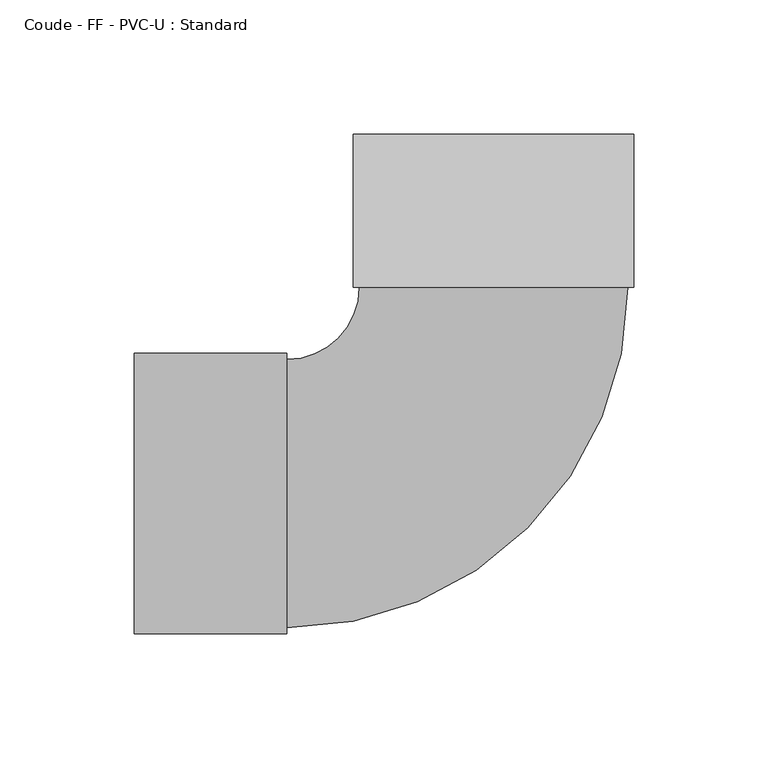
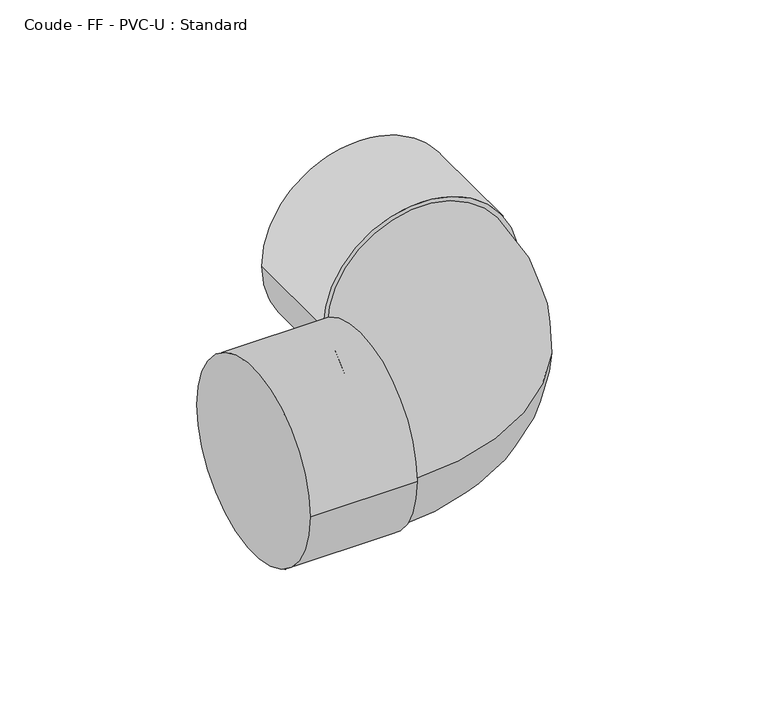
"""IFC4 building model written with IfcOpenShell, lengths in millimetres: pipe fitting geometry, Coude - FF - PVC-U : Standard."""

from ifc_helpers import new_model, si_unit, point, frame, origin, place, context, project, spatial, circle_curve, ellipse_curve, trimmed, source, transform, mapped, element, save
from ifc_brep_helpers import plane_surface, cylinder_surface, revolved_surface, advanced_brep


def coude_ff_pvc_u_standard_8c4d7ce2(model_context):
    return source(origin(), model_context, "Body", "AdvancedBrep", [
        advanced_brep(
        [(-134.0, -52.3, 0.0), (-134.0, 52.3, 0.0), (-77.0, -52.3, 0.0), (-77.0, 52.3, 0.0), (-77.0, -50.0, 0.0), (-77.0, 50.0, 0.0), (-49.9827239, 77.0112155, 0.0), (50.0172736, 76.9887806, 0.0), (52.3172736, 76.9882646, 0.0), (-52.2827238, 77.0117315, 0.0), (52.3300615, 133.9882632, 0.0), (-52.2699359, 134.0117301, 0.0)],
        [
            (0, 1, circle_curve(frame((-134.0, 0.0, 0.0), z_axis=(-1.0, 0.0, 0.0), x_axis=(0.0, 1.0, 0.0)), 52.3)),
            (1, 0, circle_curve(frame((-134.0, 0.0, 0.0), z_axis=(-1.0, 0.0, 0.0), x_axis=(0.0, 1.0, 0.0)), 52.3)),
            (2, 3, circle_curve(frame((-77.0, 0.0, 0.0), z_axis=(1.0, 0.0, 0.0), x_axis=(0.0, 1.0, 0.0)), 52.3)),
            (3, 2, circle_curve(frame((-77.0, 0.0, 0.0), z_axis=(1.0, 0.0, 0.0), x_axis=(0.0, 1.0, 0.0)), 52.3)),
            (4, 5, circle_curve(frame((-77.0, 0.0, 0.0), z_axis=(-1.0, 0.0, 0.0), x_axis=(0.0, 1.0, 0.0)), 50.0)),
            (5, 4, circle_curve(frame((-77.0, 0.0, 0.0), z_axis=(-1.0, 0.0, 0.0), x_axis=(0.0, 1.0, 0.0)), 50.0)),
            (0, 2),
            (3, 1),
            (6, 5, circle_curve(frame((-77.0, 77.0172768, 0.0), z_axis=(0.0, 0.0, -1.0), x_axis=(0.0, -1.0, 0.0)), 27.0172768)),
            (4, 7, circle_curve(frame((-77.0, 77.0172768, 0.0), z_axis=(0.0, 0.0, 1.0), x_axis=(0.0, -1.0, 0.0)), 127.0172768)),
            (7, 6, circle_curve(frame((0.0172749, 76.9999981, 0.0), z_axis=(-0.00022434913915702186, -0.9999999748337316, 0.0), x_axis=(-0.9999999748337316, 0.00022434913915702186, 0.0)), 50.0)),
            (6, 7, circle_curve(frame((0.0172749, 76.9999981, 0.0), z_axis=(-0.00022434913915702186, -0.9999999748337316, 0.0), x_axis=(-0.9999999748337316, 0.00022434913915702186, 0.0)), 50.0)),
            (8, 9, circle_curve(frame((0.0172749, 76.9999981, 0.0), z_axis=(-0.00022434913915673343, -0.9999999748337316, 0.0), x_axis=(-0.9999999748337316, 0.00022434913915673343, 0.0)), 52.3)),
            (9, 8, circle_curve(frame((0.0172749, 76.9999981, 0.0), z_axis=(-0.00022434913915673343, -0.9999999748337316, 0.0), x_axis=(-0.9999999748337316, 0.00022434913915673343, 0.0)), 52.3)),
            (10, 11, circle_curve(frame((0.0300628, 133.9999966, 0.0), z_axis=(0.00022434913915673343, 0.9999999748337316, 0.0), x_axis=(-0.9999999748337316, 0.00022434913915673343, 0.0)), 52.3)),
            (11, 10, circle_curve(frame((0.0300628, 133.9999966, 0.0), z_axis=(0.00022434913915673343, 0.9999999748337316, 0.0), x_axis=(-0.9999999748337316, 0.00022434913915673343, 0.0)), 52.3)),
            (8, 10),
            (11, 9),
        ],
        [
            plane_surface(frame((-134.0, 0.0, 0.0), z_axis=(-1.0, 0.0, 0.0), x_axis=(0.0, 0.0, 1.0))),
            plane_surface(frame((-77.0, 0.0, 0.0), z_axis=(1.0, 0.0, 0.0), x_axis=(0.0, 0.0, 1.0))),
            cylinder_surface(frame((-134.0, 0.0, 0.0), z_axis=(-1.0, 0.0, 0.0), x_axis=(0.0, 1.0, 0.0)), 52.3),
            revolved_surface(trimmed(ellipse_curve(frame((-77.0, 0.0, 0.0), z_axis=(-1.0, 0.0, 0.0), x_axis=(0.0, 1.0, 0.0)), 50.0, 50.0), [point((-77.0, -50.0, 0.0))], [point((-77.0, 50.0, 0.0))], True, "CARTESIAN"), (-77.0, 77.0172768, 0.0), (0.0, 0.0, 1.0)),
            revolved_surface(trimmed(ellipse_curve(frame((-77.0, 0.0, 0.0), z_axis=(-1.0, 0.0, 0.0), x_axis=(0.0, 1.0, 0.0)), 50.0, 50.0), [point((-77.0, 50.0, 0.0))], [point((-77.0, -50.0, 0.0))], True, "CARTESIAN"), (-77.0, 77.0172768, 0.0), (0.0, 0.0, 1.0)),
            plane_surface(frame((0.0172749, 76.9999981, 0.0), z_axis=(-0.00022434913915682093, -0.9999999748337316, 0.0), x_axis=(0.0, 0.0, 1.0))),
            plane_surface(frame((0.0300628, 133.9999966, 0.0), z_axis=(0.00022434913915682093, 0.9999999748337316, 0.0), x_axis=(0.0, 0.0, 1.0))),
            cylinder_surface(frame((0.0172749, 76.9999981, 0.0), z_axis=(-0.00022434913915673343, -0.9999999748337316, 0.0), x_axis=(-0.9999999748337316, 0.00022434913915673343, 0.0)), 52.3),
        ],
        [
            (0, [[1, 2]]),
            (1, [[3, 4], [5, 6]]),
            (2, [[-1, 7, -4, 8]]),
            (2, [[-2, -8, -3, -7]]),
            (3, [[9, -5, 10, 11]]),
            (4, [[-9, 12, -10, -6]]),
            (5, [[13, 14], [-11, -12]]),
            (6, [[15, 16]]),
            (7, [[-13, 17, -16, 18]]),
            (7, [[-14, -18, -15, -17]]),
        ],
    ),
    ])


if __name__ == "__main__":
    model = new_model("IFC4")
    model_context = context("Model", 3, world=origin())
    ifc_project = project(units=[si_unit("LENGTHUNIT", "METRE", prefix="MILLI")], contexts=[model_context])
    site = spatial("IfcSite", under=ifc_project)
    building = spatial("IfcBuilding", under=site)
    placement = place(None, origin())
    coude_ff_pvc_u_standard_shape = coude_ff_pvc_u_standard_8c4d7ce2(model_context)
    element("IfcPipeFitting", 1, ObjectType="Coude - FF - PVC-U : Standard", at=placement, inside=building, context=model_context, shape_type="MappedRepresentation", body=[
        mapped(coude_ff_pvc_u_standard_shape, transform((0.0, 0.0, 0.0), x_axis=(1.0, 0.0, 0.0), y_axis=(0.0, 1.0, 0.0), z_axis=(0.0, 0.0, 1.0))),
    ])
    save(model, "model.ifc")
